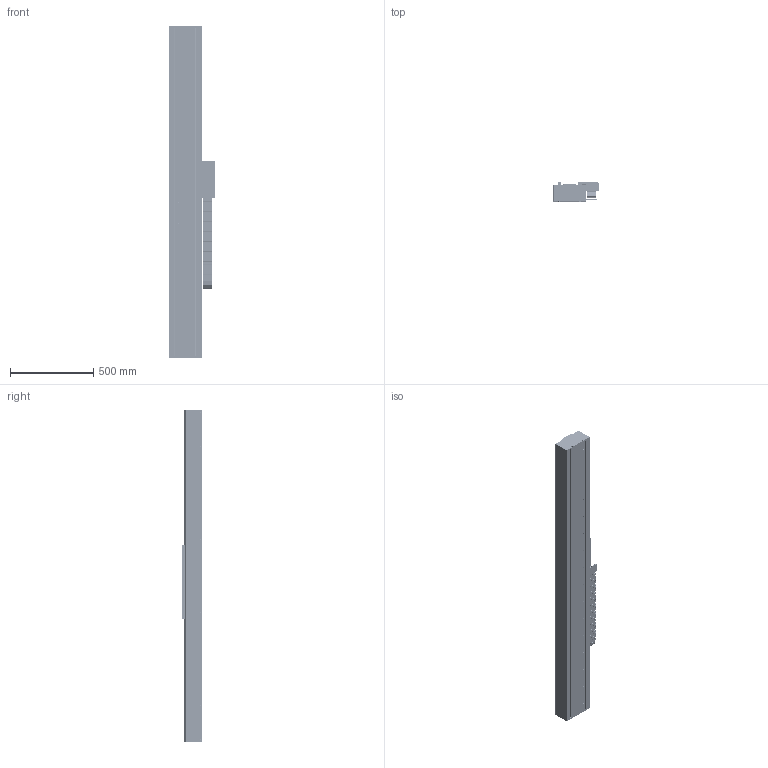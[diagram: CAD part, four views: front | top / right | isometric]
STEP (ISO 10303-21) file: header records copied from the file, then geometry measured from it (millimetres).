
FILE_DESCRIPTION (( 'STEP AP203' ), '1' );
FILE_NAME ('STF50380K-xC1B-Bxx.STEP', '2007-10-29T15:03:31', ( 'Yaskawa' ), ( 'Yaskawa' ), 'SwSTEP 2.0', 'SolidWorks 2007', '' );
FILE_SCHEMA (( 'CONFIG_CONTROL_DESIGN' ));
Products named in the file (61): Large Bumper; SSR20 Rail 820_1900; STF50-003 Renishaw Encoder Bracket; RGH22B; STCM-003 Cable Assembly Bottom; STF50-004 Flag; STCM-002-R2 Cable Assembly Front; B18.3.1M - 5 x 0.8 x 12 Hex SHCS -- 12NHX_B18.3.1M - 5 x 0.8 x 12 Hex SHCS -- 12NHX; B18.3.1M - 6 x 1.0 x 25 Hex SHCS -- 25NHX_B18.3.1M - 6 x 1.0 x 25 Hex SHCS -- 25NHX; B18.3.4M - 3 x 0.5 x 12 SBHCS --N_B18.3.4M - 3 x 0.5 x 12 SBHCS --N; STCM-007 Lower E-Chain Bracket; 07.50.038.0_20; STF50200L; 07.50.038.0_23; 07.50.038.0_24; 07.50.038.0_34; 07.50.038.0_40; 07.50.038.0_35; 07.50.038.0_41; 07.50.038.0_42; 07.50.038.0_47; 07.50.038.0_32; STF50380K-xC1B-Bxx; STF50200 Base_STF50BM-011; SGLFM-50945AC; STF50 Large End Stop; STF50-007 End Stop; STF50-380 Complete Carriage; STF50-001B F50-380 Carriage; SGLFW-50A380AP; SSR20W Block; STF50-0028-R1 F50-380 Carriage Horn; STF50-005-R2 Cable Router; STCM-R1; STCM-001-R2 Cable Bracket; STCM-004 Cable Assembly Side; STCM-005-R1 Cable Assembly Cover; STCM-006-R1 Upper E-chain Bracket; Serial Converter; B18.3.5M - 3 x 0.5 x 12 Socket FCHS  -- 12N_B18.3.5M - 3 x 0.5 x 12 Socket FCHS  -- 12N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
Assembly tree (153 placements, depth 4):
  STF50380K-xC1B-Bxx
    STF50-380 Complete Carriage
      B18.3.1M - 5 x 0.8 x 12 Hex SHCS -- 12NHX_B18.3.1M - 5 x 0.8 x 12 Hex SHCS -- 12NHX  x34
      B18.3.4M - 3 x 0.5 x 12 SBHCS --N_B18.3.4M - 3 x 0.5 x 12 SBHCS --N  x3
      STF50-001B F50-380 Carriage
      B18.3.1M - 6 x 1.0 x 25 Hex SHCS -- 25NHX_B18.3.1M - 6 x 1.0 x 25 Hex SHCS -- 25NHX  x10
      SSR20W Block  x6
      B18.3.5M - 3 x 0.5 x 12 Socket FCHS  -- 12N_B18.3.5M - 3 x 0.5 x 12 Socket FCHS  -- 12N  x6
      SGLFW-50A380AP
      STF50-003 Renishaw Encoder Bracket
      RGH22B
      STF50-004 Flag
      STF50-005-R2 Cable Router
      STF50-0028-R1 F50-380 Carriage Horn  x2
      STCM-R1
        STCM-001-R2 Cable Bracket
        STCM-003 Cable Assembly Bottom
        STCM-006-R1 Upper E-chain Bracket
        STCM-005-R1 Cable Assembly Cover
        STCM-002-R2 Cable Assembly Front
        Serial Converter
        STCM-004 Cable Assembly Side
    STF50-006 Endplate  x2
    SGLFM-50945AC  x2
    STF50 Large End Stop  x4
      STF50-007 End Stop
      Large Bumper
    STF50-10-03 Side COver_L  x2
    SSR20 Rail 820_1900  x2
    STCM-007 Lower E-Chain Bracket
    STF50200 Base_STF50BM-011
    STF50200L
      07.50.038.0_47
      07.50.038.0_37
      07.50.038.0_32  x17
      07.50.038.0_31  x16
      07.50.038.0_25
      07.50.038.0_42
      07.50.038.0_20
      07.50.038.0_22
      07.50.038.0_41
      07.50.038.0_36
      07.50.038.0_43
      07.50.038.0_40
      07.50.038.0_27
      07.50.038.0_38
      07.50.038.0_23
      07.50.038.0_44
      07.50.038.0_24
      07.50.038.0_28
      07.50.038.0_33
      07.50.038.0_30
      07.50.038.0_26
      07.50.038.0_29
      07.50.038.0_34
      07.50.038.0_39
      07.50.038.0_46
      07.50.038.0_45
      07.50.038.0_21
      07.50.038.0_35
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Bounding box: 272.91 x 115.5 x 1999.05 mm (x, y, z)
Volume: 17991349.3 mm3; surface area: 4813471.6 mm2
Topology: 209 solids, 209 shells, 9207 faces, 23625 edges, 14917 vertices
Faces by surface type: plane 4694, cylinder 3525, cone 860, torus 114, bspline 8, sphere 6
Entity records: 152663 total; most frequent: DIRECTION 25852, CARTESIAN_POINT 24971, ORIENTED_EDGE 23636, EDGE_CURVE 11818, AXIS2_PLACEMENT_3D 9257, VERTEX_POINT 7724, VECTOR 7338, LINE 7338
